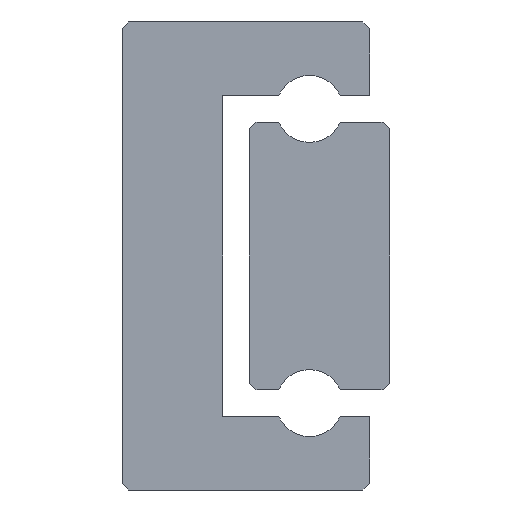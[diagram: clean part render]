
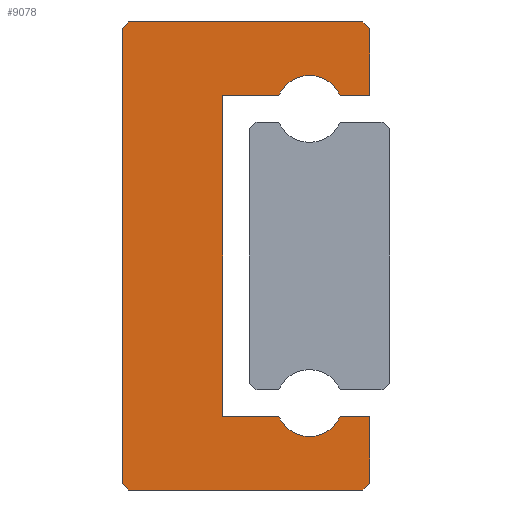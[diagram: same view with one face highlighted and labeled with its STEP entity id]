
A CAD part, left-side view. The second image highlights one B-rep face of the part: STEP entity #9078.
In plain terms, the highlighted planar face has unit normal (-1, 0, 0).
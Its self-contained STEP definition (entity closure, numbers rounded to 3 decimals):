
#63=PLANE('',#9880);
#269=LINE('',#13826,#1075);
#407=LINE('',#14599,#1213);
#410=LINE('',#14605,#1216);
#413=LINE('',#14611,#1219);
#417=LINE('',#14623,#1223);
#420=LINE('',#14633,#1226);
#423=LINE('',#14639,#1229);
#427=LINE('',#14651,#1233);
#430=LINE('',#14657,#1236);
#433=LINE('',#14663,#1239);
#436=LINE('',#14669,#1242);
#439=LINE('',#14675,#1245);
#442=LINE('',#14685,#1248);
#445=LINE('',#14691,#1251);
#1075=VECTOR('',#10791,1000.);
#1213=VECTOR('',#11427,1000.);
#1216=VECTOR('',#11432,1000.);
#1219=VECTOR('',#11437,1000.);
#1223=VECTOR('',#11449,1000.);
#1226=VECTOR('',#11458,1000.);
#1229=VECTOR('',#11463,1000.);
#1233=VECTOR('',#11475,1000.);
#1236=VECTOR('',#11480,1000.);
#1239=VECTOR('',#11485,1000.);
#1242=VECTOR('',#11490,1000.);
#1245=VECTOR('',#11495,1000.);
#1248=VECTOR('',#11504,1000.);
#1251=VECTOR('',#11509,1000.);
#2403=ORIENTED_EDGE('',*,*,#4717,.F.);
#2404=ORIENTED_EDGE('',*,*,#5149,.F.);
#2405=ORIENTED_EDGE('',*,*,#5146,.F.);
#2406=ORIENTED_EDGE('',*,*,#5141,.F.);
#2407=ORIENTED_EDGE('',*,*,#5138,.F.);
#2408=ORIENTED_EDGE('',*,*,#5135,.F.);
#2409=ORIENTED_EDGE('',*,*,#5132,.F.);
#2410=ORIENTED_EDGE('',*,*,#5129,.F.);
#2411=ORIENTED_EDGE('',*,*,#5126,.T.);
#2412=ORIENTED_EDGE('',*,*,#5123,.F.);
#2413=ORIENTED_EDGE('',*,*,#5120,.F.);
#2414=ORIENTED_EDGE('',*,*,#5115,.F.);
#2415=ORIENTED_EDGE('',*,*,#5112,.T.);
#2416=ORIENTED_EDGE('',*,*,#5109,.F.);
#2417=ORIENTED_EDGE('',*,*,#5106,.F.);
#2418=ORIENTED_EDGE('',*,*,#5103,.F.);
#4717=EDGE_CURVE('',#6117,#6118,#269,.T.);
#5103=EDGE_CURVE('',#6118,#6503,#407,.T.);
#5106=EDGE_CURVE('',#6503,#6505,#410,.T.);
#5109=EDGE_CURVE('',#6505,#6507,#413,.T.);
#5112=EDGE_CURVE('',#6509,#6507,#7291,.T.);
#5115=EDGE_CURVE('',#6509,#6511,#417,.T.);
#5120=EDGE_CURVE('',#6511,#6515,#420,.T.);
#5123=EDGE_CURVE('',#6515,#6517,#423,.T.);
#5126=EDGE_CURVE('',#6519,#6517,#7295,.T.);
#5129=EDGE_CURVE('',#6519,#6521,#427,.T.);
#5132=EDGE_CURVE('',#6521,#6523,#430,.T.);
#5135=EDGE_CURVE('',#6523,#6525,#433,.T.);
#5138=EDGE_CURVE('',#6525,#6527,#436,.T.);
#5141=EDGE_CURVE('',#6527,#6529,#439,.T.);
#5146=EDGE_CURVE('',#6529,#6533,#442,.T.);
#5149=EDGE_CURVE('',#6533,#6117,#445,.T.);
#6117=VERTEX_POINT('',#13827);
#6118=VERTEX_POINT('',#13828);
#6503=VERTEX_POINT('',#14600);
#6505=VERTEX_POINT('',#14606);
#6507=VERTEX_POINT('',#14612);
#6509=VERTEX_POINT('',#14618);
#6511=VERTEX_POINT('',#14624);
#6515=VERTEX_POINT('',#14634);
#6517=VERTEX_POINT('',#14640);
#6519=VERTEX_POINT('',#14646);
#6521=VERTEX_POINT('',#14652);
#6523=VERTEX_POINT('',#14658);
#6525=VERTEX_POINT('',#14664);
#6527=VERTEX_POINT('',#14670);
#6529=VERTEX_POINT('',#14676);
#6533=VERTEX_POINT('',#14686);
#7291=CIRCLE('',#9860,0.5);
#7295=CIRCLE('',#9868,0.5);
#7709=EDGE_LOOP('',(#2403,#2404,#2405,#2406,#2407,#2408,#2409,#2410,#2411,
#2412,#2413,#2414,#2415,#2416,#2417,#2418));
#8261=FACE_BOUND('',#7709,.T.);
#9078=ADVANCED_FACE('',(#8261),#63,.F.);
#9860=AXIS2_PLACEMENT_3D('',#14617,#11442,#11443);
#9868=AXIS2_PLACEMENT_3D('',#14645,#11468,#11469);
#9880=AXIS2_PLACEMENT_3D('',#14694,#11513,#11514);
#10791=DIRECTION('',(0.,-1.,0.));
#11427=DIRECTION('',(0.,-0.707,-0.707));
#11432=DIRECTION('',(0.,0.,-1.));
#11437=DIRECTION('',(0.,1.,0.));
#11442=DIRECTION('',(1.,0.,0.));
#11443=DIRECTION('',(0.,0.,-1.));
#11449=DIRECTION('',(0.,1.,0.));
#11458=DIRECTION('',(0.,0.,-1.));
#11463=DIRECTION('',(0.,-1.,0.));
#11468=DIRECTION('',(1.,0.,0.));
#11469=DIRECTION('',(0.,0.,-1.));
#11475=DIRECTION('',(0.,-1.,0.));
#11480=DIRECTION('',(0.,0.,-1.));
#11485=DIRECTION('',(0.,0.707,-0.707));
#11490=DIRECTION('',(0.,1.,0.));
#11495=DIRECTION('',(0.,0.707,0.707));
#11504=DIRECTION('',(0.,0.,1.));
#11509=DIRECTION('',(0.,-0.707,0.707));
#11513=DIRECTION('',(1.,0.,0.));
#11514=DIRECTION('',(0.,0.,-1.));
#13826=CARTESIAN_POINT('',(-10.,3.6,3.5));
#13827=CARTESIAN_POINT('',(-10.,3.6,3.5));
#13828=CARTESIAN_POINT('',(-10.,0.1,3.5));
#14599=CARTESIAN_POINT('',(-10.,0.1,3.5));
#14600=CARTESIAN_POINT('',(-10.,0.,3.4));
#14605=CARTESIAN_POINT('',(-10.,0.,3.4));
#14606=CARTESIAN_POINT('',(-10.,0.,2.4));
#14611=CARTESIAN_POINT('',(-10.,0.,2.4));
#14612=CARTESIAN_POINT('',(-10.,0.442,2.4));
#14617=CARTESIAN_POINT('',(-10.,0.9,2.2));
#14618=CARTESIAN_POINT('',(-10.,1.358,2.4));
#14623=CARTESIAN_POINT('',(-10.,1.358,2.4));
#14624=CARTESIAN_POINT('',(-10.,2.2,2.4));
#14633=CARTESIAN_POINT('',(-10.,2.2,2.4));
#14634=CARTESIAN_POINT('',(-10.,2.2,-2.4));
#14639=CARTESIAN_POINT('',(-10.,2.2,-2.4));
#14640=CARTESIAN_POINT('',(-10.,1.358,-2.4));
#14645=CARTESIAN_POINT('',(-10.,0.9,-2.2));
#14646=CARTESIAN_POINT('',(-10.,0.442,-2.4));
#14651=CARTESIAN_POINT('',(-10.,0.442,-2.4));
#14652=CARTESIAN_POINT('',(-10.,0.,-2.4));
#14657=CARTESIAN_POINT('',(-10.,0.,-2.4));
#14658=CARTESIAN_POINT('',(-10.,0.,-3.4));
#14663=CARTESIAN_POINT('',(-10.,0.,-3.4));
#14664=CARTESIAN_POINT('',(-10.,0.1,-3.5));
#14669=CARTESIAN_POINT('',(-10.,0.1,-3.5));
#14670=CARTESIAN_POINT('',(-10.,3.6,-3.5));
#14675=CARTESIAN_POINT('',(-10.,3.6,-3.5));
#14676=CARTESIAN_POINT('',(-10.,3.7,-3.4));
#14685=CARTESIAN_POINT('',(-10.,3.7,-3.4));
#14686=CARTESIAN_POINT('',(-10.,3.7,3.4));
#14691=CARTESIAN_POINT('',(-10.,3.7,3.4));
#14694=CARTESIAN_POINT('',(-10.,0.9,2.2));
